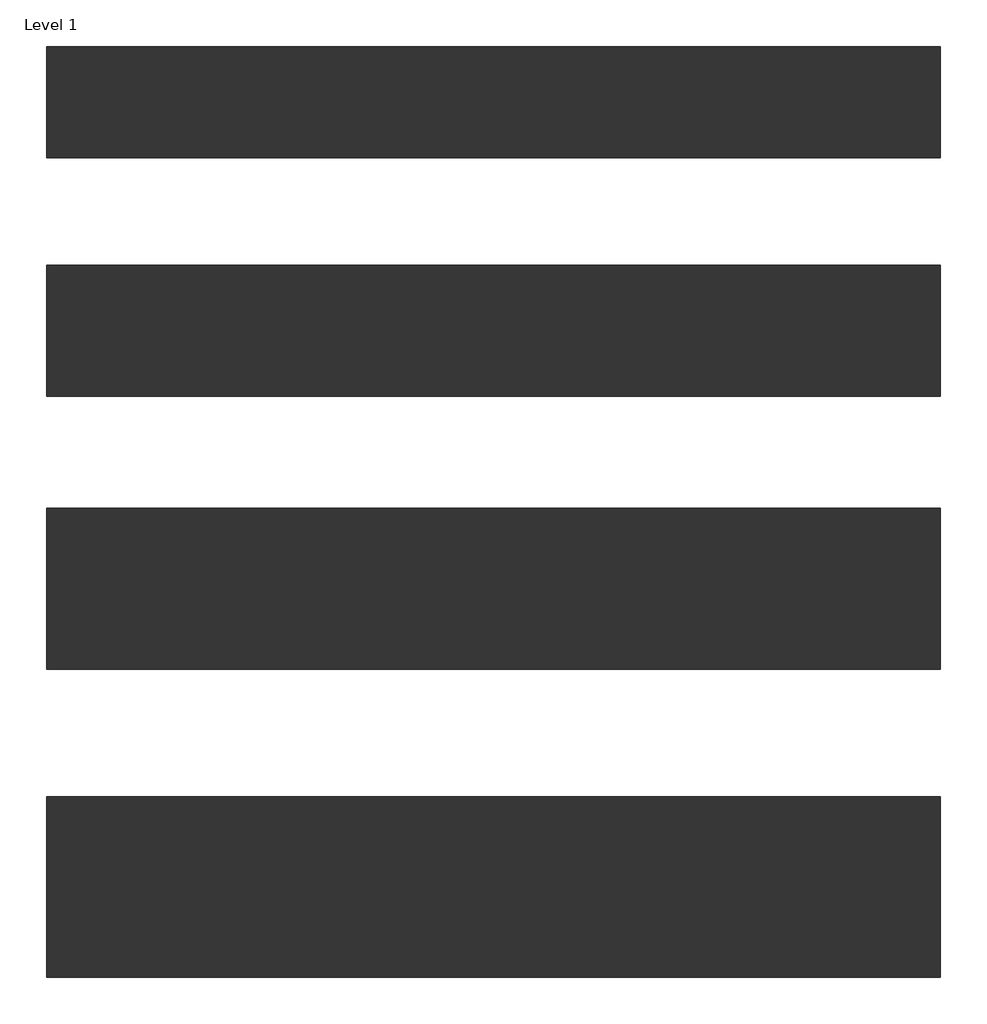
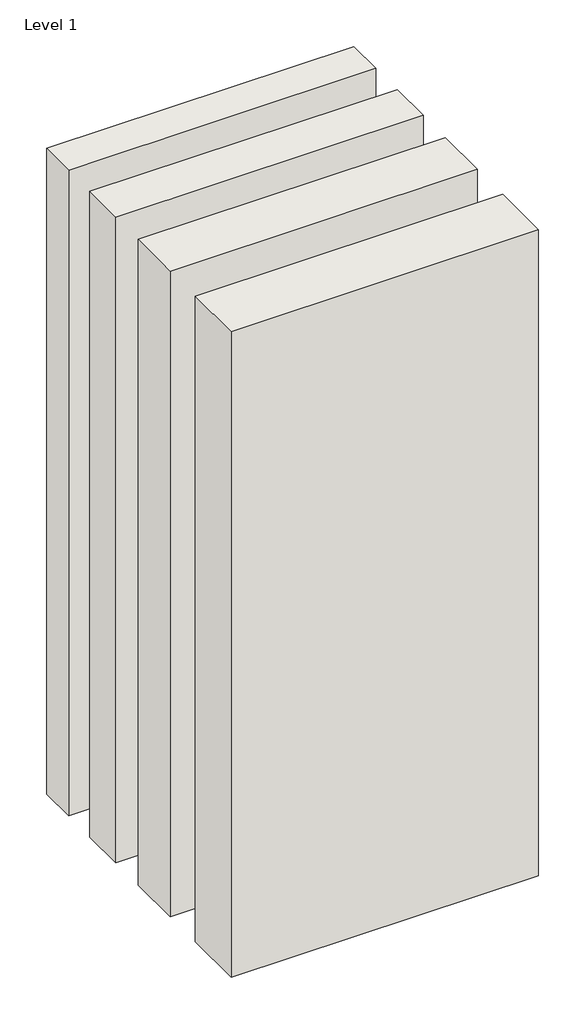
# One storey: 4 walls.
"""IFC4 building model written with IfcOpenShell, lengths in millimetres."""

from ifc_helpers import new_model, si_unit, origin, origin_with_axes, place, context, project, spatial, polyline, outline, extrude, element, save

model = new_model("IFC4")

# Units and contexts
model_context = context("Model", 3, world=origin())
ifc_project = project(units=[si_unit("LENGTHUNIT", "METRE", prefix="MILLI")], contexts=[model_context])

# Site, building, storey
site = spatial("IfcSite", under=ifc_project)
building = spatial("IfcBuilding", under=site)
storey = spatial("IfcBuildingStorey", under=building, Name="Level 1", Elevation=0.0)

# Walls
placement = place(None, origin())
element("IfcWall", 1, ObjectType="Interior-Timber Frame-Double Stud-CSR2385-224mm", at=placement, inside=storey, context=model_context, shape_type="SweptSolid", body=[
    extrude(outline(polyline([(1209.1027791, -3024.5592728), (3009.1027791, -3024.5592728), (3009.1027791, -3248.5592728), (1209.1027791, -3248.5592728), (1209.1027791, -3024.5592728)])), origin_with_axes(), (0.0, 0.0, 1.0), 4000.0),
])
element("IfcWall", 2, ObjectType="Interior-Timber Frame-Double Stud-CSR2385-264mm", at=placement, inside=storey, context=model_context, shape_type="SweptSolid", body=[
    extrude(outline(polyline([(1209.1027791, -3464.5592728), (3009.1027791, -3464.5592728), (3009.1027791, -3728.5592728), (1209.1027791, -3728.5592728), (1209.1027791, -3464.5592728)])), origin_with_axes(), (0.0, 0.0, 1.0), 4000.0),
])
element("IfcWall", 3, ObjectType="Interior-Timber Frame-Double Stud-CSR2385-324mm", at=placement, inside=storey, context=model_context, shape_type="SweptSolid", body=[
    extrude(outline(polyline([(1209.1027791, -3954.5592728), (3009.1027791, -3954.5592728), (3009.1027791, -4278.5592728), (1209.1027791, -4278.5592728), (1209.1027791, -3954.5592728)])), origin_with_axes(), (0.0, 0.0, 1.0), 4000.0),
])
element("IfcWall", 4, ObjectType="Interior-Timber Frame-Double Stud-CSR2385-364mm", at=placement, inside=storey, context=model_context, shape_type="SweptSolid", body=[
    extrude(outline(polyline([(1209.1027791, -4534.5592728), (3009.1027791, -4534.5592728), (3009.1027791, -4898.5592728), (1209.1027791, -4898.5592728), (1209.1027791, -4534.5592728)])), origin_with_axes(), (0.0, 0.0, 1.0), 4000.0),
])

save(model, "model.ifc")
